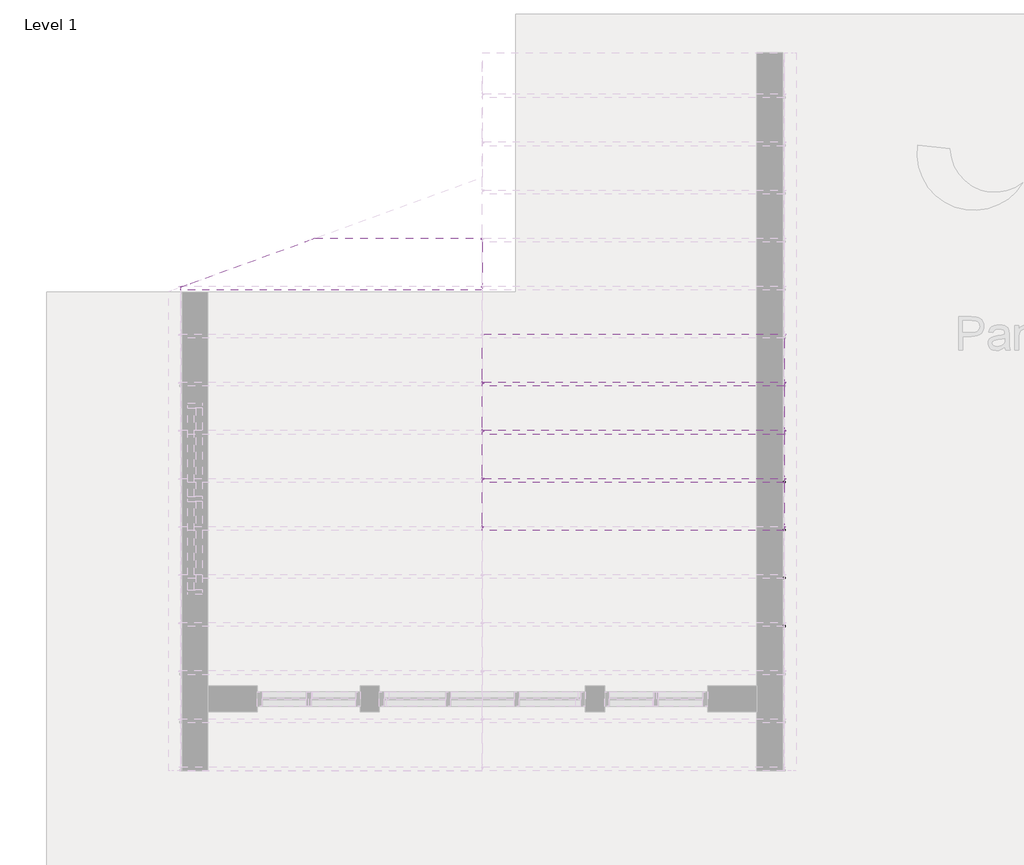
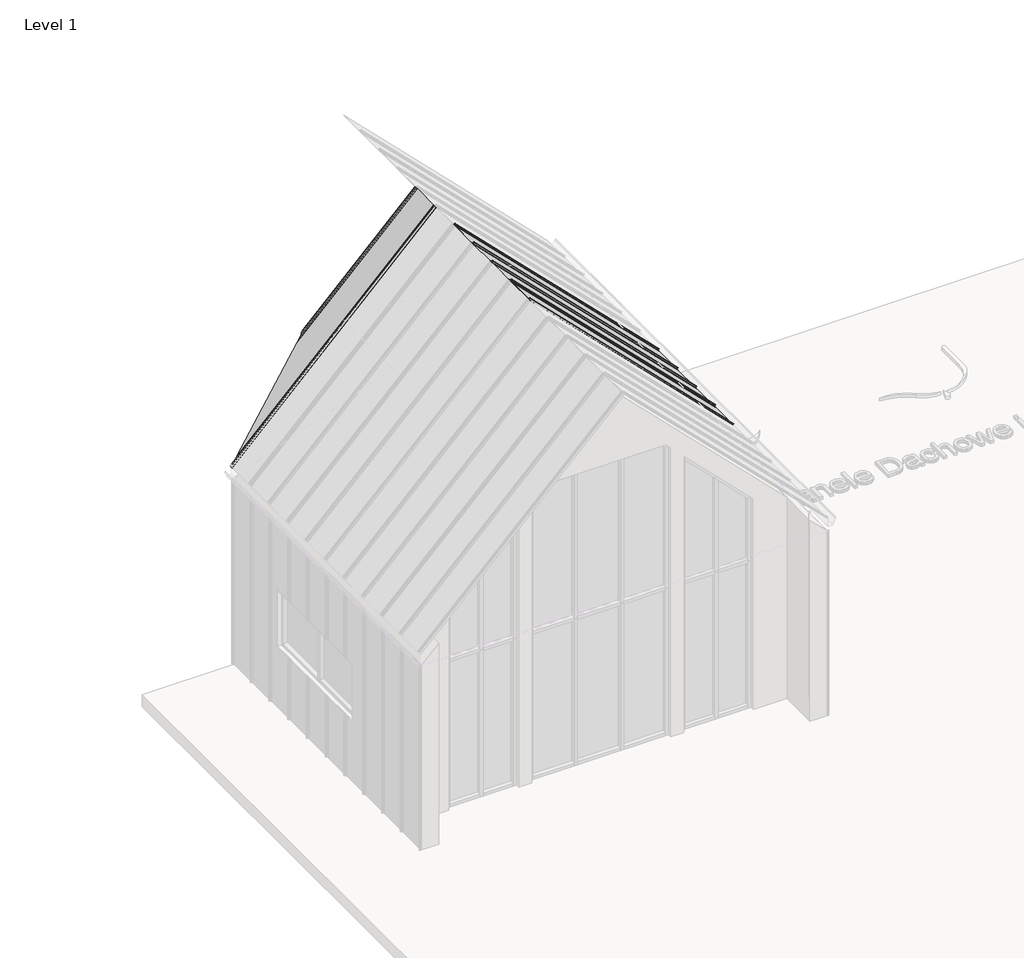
# One storey, part 6 of 22: 9 proxies.
"""IFC4 building model written with IfcOpenShell, lengths in millimetres."""

from ifc_helpers import new_model, si_unit, point, frame, frame_2d, origin, place, context, project, spatial, polyline, circle_curve, ellipse_curve, trimmed, segment, composite_curve, outline, extrude, faceted_brep, transform, mapped, element, save
from ifc_brep_helpers import plane_surface, cylinder_surface, revolved_surface, advanced_brep
from components import aqua_579f6fc6

model = new_model("IFC4")

# Units and contexts
model_context = context("Model", 3, world=origin())
ifc_project = project(units=[si_unit("LENGTHUNIT", "METRE", prefix="MILLI")], contexts=[model_context])

# Site, building, storey
site = spatial("IfcSite", under=ifc_project)
building = spatial("IfcBuilding", under=site)
storey = spatial("IfcBuildingStorey", under=building, Name="Level 1", Elevation=0.0)

# Proxies
placement = place(None, origin())
element("IfcBuildingElementProxy", 1, Name="AQUAPLAST - Panel Dachowy i Elewacyjny Aqua : Aqua", ObjectType="AQUAPLAST - Panel Dachowy i Elewacyjny Aqua : Aqua", at=placement, inside=storey, context=model_context, shape_type="SolidModel", body=[
    faceted_brep([(-5288.1752651, 14189.6302878, 6946.0091876), (-5288.1752651, 13757.4302375, 6946.0091876), (-5287.6095796, 13757.4302375, 6945.4435021), (-5287.6095796, 14189.6302878, 6945.4435021), (-7140.9819465, 14189.6302878, 5093.2025061), (-8328.4418253, 13757.4302375, 3905.7426273), (-8328.4418253, 13757.4302375, 3904.6112564), (-7140.9819465, 14189.6302878, 5092.0711353)], [[[0, 1, 2, 3]], [[1, 0, 4, 5]], [[2, 1, 5, 6]], [[3, 2, 6, 7]], [[0, 3, 7, 4]], [[5, 4, 7, 6]]]),
    advanced_brep(
    [(-5287.6095796, 14189.6302878, 6945.4435021), (-5288.1752651, 14189.6302878, 6946.0091876), (-7140.9819465, 14189.6302878, 5093.2025061), (-7140.9819465, 14189.6302878, 5092.0711353), (-5304.3675572, 14229.0282487, 6962.2014797), (-5304.7220183, 14228.526965, 6962.5559408), (-7034.114204, 14228.526965, 5233.163755), (-7032.7369384, 14229.0282487, 5233.8320984), (-5293.9366751, 14228.5205199, 6951.7705976), (-5294.5286279, 14229.0282487, 6952.3625504), (-7032.7369384, 14229.0282487, 5214.1542399), (-7034.1319119, 14228.5205199, 5211.5753608), (-5288.9108953, 14229.0494801, 6946.7448179), (-7032.6786057, 14229.0494801, 5202.9771075), (-5304.7220183, 14218.0304456, 6962.5559408), (-5289.4767511, 14229.0494801, 6947.3106737), (-5293.357646, 14229.0494801, 6951.1915685), (-5293.8348928, 14229.7302878, 6951.6688153), (-5304.9336958, 14229.7302878, 6962.7676183), (-5305.2872492, 14229.2302878, 6963.1211717), (-5305.2872492, 14217.2302878, 6963.1211717), (-5304.9336958, 14216.7302878, 6962.7676183), (-5289.0945039, 14216.7302878, 6946.9284264), (-5288.7409505, 14216.2302878, 6946.574873), (-5288.7409505, 14193.1302878, 6946.574873), (-5288.1753076, 14193.1302878, 6946.0092301), (-5288.1753076, 14217.0302126, 6946.0092301), (-5288.5287972, 14217.5301224, 6946.3627197), (-5304.3682363, 14217.5301224, 6962.2021588), (-7067.8990472, 14216.2302878, 5167.4167763), (-7131.3657755, 14193.1302878, 5103.9500479), (-7131.3657755, 14193.1302878, 5102.8187621), (-7065.7012718, 14217.0302126, 5168.4832659), (-7064.3277809, 14217.5301224, 5170.5637359), (-7064.3277809, 14217.5301224, 5202.2426141), (-7062.953154, 14218.0304456, 5204.324805), (-7032.6786057, 14229.0494801, 5204.1088191), (-7030.808102, 14229.7302878, 5214.6956062), (-7030.808102, 14229.7302878, 5236.8932121), (-7032.1818407, 14229.2302878, 5236.2265801), (-7065.1515697, 14217.2302878, 5203.2568511), (-7066.5253084, 14216.7302878, 5201.1760056), (-7066.5253084, 14216.7302878, 5169.4976218), (-7032.6786057, 14229.0494801, 5211.8706087)],
    [
        (0, 1),
        (1, 2),
        (2, 3),
        (3, 0),
        (4, 5, circle_curve(frame((-5304.3675572, 14228.526965, 6962.2014797), z_axis=(0.7071067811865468, 0.0, 0.7071067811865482), x_axis=(0.0, -1.0, 0.0)), 0.5012837)),
        (5, 6),
        (6, 7, ellipse_curve(frame((-7034.114204, 14228.526965, 5232.4548328), z_axis=(-0.34202014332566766, 0.9396926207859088, 0.0), x_axis=(-0.6434931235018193, -0.23421234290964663, -0.7287394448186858)), 2.0727498, 0.5012837)),
        (7, 4),
        (8, 9, circle_curve(frame((-5294.5286279, 14228.0842362, 6952.3625504), z_axis=(0.7071067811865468, 0.0, 0.7071067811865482), x_axis=(0.0, -1.0, 0.0)), 0.9440125)),
        (9, 10),
        (10, 11, ellipse_curve(frame((-7035.3305915, 14228.0842362, 5211.5605868), z_axis=(-0.34202014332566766, 0.9396926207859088, 0.0), x_axis=(-0.6434931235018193, -0.23421234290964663, -0.7287394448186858)), 3.9033822, 0.9440125)),
        (11, 8),
        (12, 8, circle_curve(frame((-5291.4377034, 14229.0494801, 6949.2716259), z_axis=(-0.7071067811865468, 0.0, -0.7071067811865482), x_axis=(0.0, -1.0, 0.0)), 3.5734462)),
        (11, 13, ellipse_curve(frame((-7032.6786057, 14229.0494801, 5208.0307236), z_axis=(0.34202014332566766, -0.9396926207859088, 0.0), x_axis=(0.6434931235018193, 0.23421234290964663, 0.7287394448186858)), 14.7757851, 3.5734462)),
        (13, 12),
        (14, 5),
        (4, 9),
        (12, 15),
        (15, 16, circle_curve(frame((-5291.4171986, 14229.0494801, 6949.2511211), z_axis=(-0.7071067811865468, 0.0, -0.7071067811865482), x_axis=(0.0, -1.0, 0.0)), 2.7442071)),
        (16, 17, circle_curve(frame((-5293.8348928, 14229.0553334, 6951.6688153), z_axis=(0.7071067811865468, 0.0, 0.7071067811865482), x_axis=(0.0, -1.0, 0.0)), 0.6749543)),
        (17, 18),
        (18, 19, circle_curve(frame((-5304.9336958, 14229.2302878, 6962.7676183), z_axis=(0.7071067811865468, 0.0, 0.7071067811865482), x_axis=(0.0, -1.0, 0.0)), 0.5)),
        (19, 20),
        (20, 21, circle_curve(frame((-5304.9336958, 14217.2302878, 6962.7676183), z_axis=(0.7071067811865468, 0.0, 0.7071067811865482), x_axis=(0.0, -1.0, 0.0)), 0.5)),
        (21, 22),
        (22, 23, circle_curve(frame((-5289.0945039, 14216.2302878, 6946.9284264), z_axis=(-0.7071067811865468, 0.0, -0.7071067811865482), x_axis=(0.0, -1.0, 0.0)), 0.5)),
        (23, 24),
        (24, 1),
        (0, 25),
        (25, 26),
        (26, 27, circle_curve(frame((-5288.5287972, 14217.0302126, 6946.3627197), z_axis=(0.7071067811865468, 0.0, 0.7071067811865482), x_axis=(0.0, -1.0, 0.0)), 0.4999098)),
        (27, 28),
        (28, 14, circle_curve(frame((-5304.3682363, 14218.0304456, 6962.2021588), z_axis=(-0.7071067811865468, 0.0, -0.7071067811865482), x_axis=(0.0, -1.0, 0.0)), 0.5003233)),
        (23, 29),
        (29, 30),
        (30, 24),
        (30, 2),
        (3, 31),
        (31, 25),
        (31, 32),
        (32, 26),
        (27, 33),
        (33, 34),
        (34, 28),
        (14, 35),
        (35, 6),
        (7, 10),
        (13, 36),
        (36, 15),
        (17, 37),
        (37, 38),
        (38, 18),
        (19, 39),
        (39, 40),
        (40, 20),
        (21, 41),
        (41, 42),
        (42, 22),
        (32, 33, ellipse_curve(frame((-7065.7012718, 14217.0302126, 5169.1902451), z_axis=(0.34202014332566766, -0.9396926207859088, 0.0), x_axis=(0.6434931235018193, 0.23421234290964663, 0.7287394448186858)), 2.0670689, 0.4999098)),
        (34, 35, ellipse_curve(frame((-7062.953154, 14218.0304456, 5203.617241), z_axis=(-0.34202014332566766, 0.9396926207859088, 0.0), x_axis=(-0.6434931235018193, -0.23421234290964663, -0.7287394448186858)), 2.0687786, 0.5003233)),
        (38, 39, ellipse_curve(frame((-7032.1818407, 14229.2302878, 5235.5194733), z_axis=(0.34202014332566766, -0.9396926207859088, 0.0), x_axis=(0.6434931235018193, 0.23421234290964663, 0.7287394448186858)), 2.0674419, 0.5)),
        (40, 41, ellipse_curve(frame((-7065.1515697, 14217.2302878, 5202.5497443), z_axis=(0.34202014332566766, -0.9396926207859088, 0.0), x_axis=(0.6434931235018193, 0.23421234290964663, 0.7287394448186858)), 2.0674419, 0.5)),
        (42, 29, ellipse_curve(frame((-7067.8990472, 14216.2302878, 5168.1238831), z_axis=(-0.34202014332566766, 0.9396926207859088, 0.0), x_axis=(-0.6434931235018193, -0.23421234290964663, -0.7287394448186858)), 2.0674419, 0.5)),
        (36, 43, ellipse_curve(frame((-7032.6786057, 14229.0494801, 5207.9897139), z_axis=(-0.34202014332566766, 0.9396926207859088, 0.0), x_axis=(-0.6434931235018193, -0.23421234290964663, -0.7287394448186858)), 11.3469774, 2.7442071)),
        (43, 16),
        (43, 37, ellipse_curve(frame((-7032.6625238, 14229.0553334, 5212.8411844), z_axis=(0.34202014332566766, -0.9396926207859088, 0.0), x_axis=(0.6434931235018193, 0.23421234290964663, 0.7287394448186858)), 2.7908578, 0.6749543)),
    ],
    [
        plane_surface(frame((-5288.1752651, 14189.6302878, 6946.0091876), z_axis=(0.0, -1.0, 0.0), x_axis=(-0.7071067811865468, 0.0, -0.7071067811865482))),
        revolved_surface(polyline([(-7035.536351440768, 14228.0256813, 5231.032685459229), (-5304.3675572, 14228.0256813, 6962.2014797)]), (-5304.3675572, 14228.526965, 6962.2014797), (-0.7071067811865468, 0.0, -0.7071067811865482)),
        revolved_surface(polyline([(-7038.008765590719, 14227.1402237, 5208.882412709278), (-5294.5286279, 14227.1402237, 6952.3625504)]), (-5294.5286279, 14228.0842362, 6952.3625504), (-0.7071067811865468, 0.0, -0.7071067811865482)),
        cylinder_surface(frame((-5291.4377034, 14229.0494801, 6949.2716259), z_axis=(0.7071067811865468, 0.0, 0.7071067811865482), x_axis=(0.0, -1.0, 0.0)), 3.5734462),
        plane_surface(frame((-5287.6095796, 14229.7302878, 6945.4435021), z_axis=(0.7071067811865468, 0.0, 0.7071067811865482), x_axis=(-0.7071067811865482, 0.0, 0.7071067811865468))),
        plane_surface(frame((-5288.7409505, 14216.2302878, 6946.574873), z_axis=(-0.7071067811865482, 0.0, 0.7071067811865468), x_axis=(-0.7071067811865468, 0.0, -0.7071067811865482))),
        plane_surface(frame((-5288.7409505, 14193.1302878, 6946.574873), z_axis=(-0.6893290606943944, -0.2228248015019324, 0.6893290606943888), x_axis=(-0.7071067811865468, 0.0, -0.7071067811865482))),
        plane_surface(frame((-5287.6095796, 14189.6302878, 6945.4435021), z_axis=(0.6893264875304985, 0.22284072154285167, -0.689326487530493), x_axis=(-0.7071067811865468, 0.0, -0.7071067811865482))),
        plane_surface(frame((-5288.1753076, 14193.1302878, 6946.0092301), z_axis=(0.7071067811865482, 0.0, -0.7071067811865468), x_axis=(-0.7071067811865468, 0.0, -0.7071067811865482))),
        plane_surface(frame((-5288.5287972, 14217.5301224, 6946.3627197), z_axis=(0.0, 1.0, 0.0), x_axis=(-0.7071067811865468, 0.0, -0.7071067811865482))),
        plane_surface(frame((-5304.7220183, 14218.0304456, 6962.5559408), z_axis=(0.7071067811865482, 0.0, -0.7071067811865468), x_axis=(-0.7071067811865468, 0.0, -0.7071067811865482))),
        plane_surface(frame((-5304.3675572, 14229.0282487, 6962.2014797), z_axis=(0.0, -1.0, 0.0), x_axis=(-0.7071067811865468, 0.0, -0.7071067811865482))),
        plane_surface(frame((-5288.9108953, 14229.0494801, 6946.7448179), z_axis=(0.0, 1.0, 0.0), x_axis=(-0.7071067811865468, 0.0, -0.7071067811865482))),
        plane_surface(frame((-5293.8348928, 14229.7302878, 6951.6688153), z_axis=(0.0, 1.0, 0.0), x_axis=(-0.7071067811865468, 0.0, -0.7071067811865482))),
        plane_surface(frame((-5305.2872492, 14229.2302878, 6963.1211717), z_axis=(-0.7071067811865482, 0.0, 0.7071067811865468), x_axis=(-0.7071067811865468, 0.0, -0.7071067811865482))),
        plane_surface(frame((-5304.9336958, 14216.7302878, 6962.7676183), z_axis=(0.0, -1.0, 0.0), x_axis=(-0.7071067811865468, 0.0, -0.7071067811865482))),
        cylinder_surface(frame((-5288.5287972, 14217.0302126, 6946.3627197), z_axis=(0.7071067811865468, 0.0, 0.7071067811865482), x_axis=(0.0, -1.0, 0.0)), 0.4999098),
        revolved_surface(polyline([(-7064.37257673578, 14217.530122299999, 5202.197818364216), (-5304.3682363, 14217.530122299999, 6962.2021588)]), (-5304.3682363, 14218.0304456, 6962.2021588), (-0.7071067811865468, 0.0, -0.7071067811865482)),
        cylinder_surface(frame((-5304.9336958, 14229.2302878, 6962.7676183), z_axis=(0.7071067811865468, 0.0, 0.7071067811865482), x_axis=(0.0, -1.0, 0.0)), 0.5),
        cylinder_surface(frame((-5304.9336958, 14217.2302878, 6962.7676183), z_axis=(0.7071067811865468, 0.0, 0.7071067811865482), x_axis=(0.0, -1.0, 0.0)), 0.5),
        revolved_surface(polyline([(-7069.3175527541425, 14215.7302878, 5166.7053775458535), (-5289.0945039, 14215.7302878, 6946.9284264)]), (-5289.0945039, 14216.2302878, 6946.9284264), (-0.7071067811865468, 0.0, -0.7071067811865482)),
        revolved_surface(polyline([(-7040.463951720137, 14226.305273, 5200.204367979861), (-5291.417198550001, 14226.305273, 6949.25112115)]), (-5291.4171986, 14229.0494801, 6949.2511211), (-0.7071067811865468, 0.0, -0.7071067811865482)),
        cylinder_surface(frame((-5293.8348928, 14229.0553334, 6951.6688153), z_axis=(0.7071067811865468, 0.0, 0.7071067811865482), x_axis=(0.0, -1.0, 0.0)), 0.6749543),
        plane_surface(frame((-5286.1599406, 14864.7302878, 7363.6396103), z_axis=(-0.34202014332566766, 0.9396926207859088, 0.0), x_axis=(0.0, 0.0, -1.0))),
    ],
    [
        (0, [[1, 2, 3, 4]]),
        (1, [[5, 6, 7, 8]]),
        (2, [[9, 10, 11, 12]]),
        (3, [[13, -12, 14, 15]]),
        (4, [[16, -5, 17, -9, -13, 18, 19, 20, 21, 22, 23, 24, 25, 26, 27, 28, -1, 29, 30, 31, 32, 33]]),
        (5, [[-27, 34, 35, 36]]),
        (6, [[-28, -36, 37, -2]]),
        (7, [[-29, -4, 38, 39]]),
        (8, [[-30, -39, 40, 41]]),
        (9, [[-32, 42, 43, 44]]),
        (10, [[-16, 45, 46, -6]]),
        (11, [[-17, -8, 47, -10]]),
        (12, [[-18, -15, 48, 49]]),
        (13, [[-21, 50, 51, 52]]),
        (14, [[-23, 53, 54, 55]]),
        (15, [[-25, 56, 57, 58]]),
        (16, [[-31, -41, 59, -42]]),
        (17, [[-33, -44, 60, -45]]),
        (18, [[-22, -52, 61, -53]]),
        (19, [[-24, -55, 62, -56]]),
        (20, [[-26, -58, 63, -34]]),
        (21, [[-19, -49, 64, 65]]),
        (22, [[-20, -65, 66, -50]]),
        (23, [[-3, -37, -35, -63, -57, -62, -54, -61, -51, -66, -64, -48, -14, -11, -47, -7, -46, -60, -43, -59, -40, -38]]),
    ],
),
    advanced_brep(
    [(-5288.1752651, 13684.7302878, 6946.0091876), (-5287.6095796, 13684.7302878, 6945.4435021), (-5287.6095796, 13715.9955205, 6945.4435021), (-5288.0509427, 13716.7264186, 6945.8848652), (-5300.6771482, 13719.556418, 6958.5110707), (-5301.1402304, 13723.0909309, 6958.9741529), (-5296.019489, 13726.0026946, 6953.8534115), (-5294.5048518, 13725.1636585, 6952.3387743), (-5288.1752651, 13727.1739857, 6946.0091876), (-5288.1752651, 13753.9302375, 6946.0091876), (-5287.6095796, 13757.4302375, 6945.4435021), (-5288.1752651, 13757.4302375, 6946.0091876), (-5288.7409505, 13753.9302375, 6946.574873), (-5288.7409505, 13727.0148102, 6946.574873), (-5293.9752443, 13725.4493744, 6951.8091668), (-5296.2321549, 13726.7440114, 6954.0660774), (-5301.4230731, 13723.7837512, 6959.2569956), (-5300.8786897, 13718.7965529, 6958.7126122), (-5288.5642668, 13715.7635962, 6946.3981893), (-5288.1752651, 13715.1093758, 6946.0091876), (-8437.6288685, 13684.7302878, 3796.5555842), (-8437.6288685, 13715.1093758, 3796.5555842), (-8438.0178702, 13715.7635962, 3796.9445859), (-8440.9415634, 13716.4836815, 3799.8682791), (-8439.2189186, 13717.1106729, 3798.1456343), (-8437.5045461, 13716.7264186, 3796.4312618), (-8437.063183, 13715.9955205, 3795.9898987), (-8437.063183, 13684.7302878, 3795.9898987), (-8411.5701939, 13727.1739857, 3822.6142587), (-8338.0579963, 13753.9302375, 3896.1264563), (-8328.4418253, 13757.4302375, 3904.6112564), (-8328.4418253, 13757.4302375, 3905.7426273), (-8338.0579963, 13753.9302375, 3897.2578272), (-8412.0075249, 13727.0148102, 3823.3082985), (-8432.4992891, 13719.556418, 3826.6889298), (-8422.7882948, 13723.0909309, 3837.3260885), (-8414.7882899, 13726.0026946, 3835.0846106), (-8417.0935225, 13725.1636585, 3829.7501035), (-8416.3085244, 13725.4493744, 3829.4758867), (-8412.7515386, 13726.7440114, 3837.5466937), (-8420.8847866, 13723.7837512, 3839.7952821), (-8434.5870014, 13718.7965529, 3825.0043004)],
    [
        (0, 1),
        (1, 2),
        (2, 3, circle_curve(frame((-5288.1328534, 13715.9955205, 6945.9667759), z_axis=(0.7071067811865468, 0.0, 0.7071067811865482), x_axis=(0.0, -1.0, 0.0)), 0.7400208)),
        (3, 4),
        (4, 5, circle_curve(frame((-5300.4660973, 13721.4396488, 6958.3000198), z_axis=(-0.7071067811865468, 0.0, -0.7071067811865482), x_axis=(0.0, -1.0, 0.0)), 1.9067363)),
        (5, 6),
        (6, 7, circle_curve(frame((-5295.577024, 13724.4464221, 6953.4109465), z_axis=(-0.7071067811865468, 0.0, -0.7071067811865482), x_axis=(0.0, -1.0, 0.0)), 1.6773594)),
        (7, 8, circle_curve(frame((-5291.4996824, 13727.1739857, 6949.3336049), z_axis=(0.7071067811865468, 0.0, 0.7071067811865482), x_axis=(0.0, -1.0, 0.0)), 4.7014361)),
        (8, 9),
        (9, 10),
        (10, 11),
        (11, 12),
        (12, 13),
        (13, 14, circle_curve(frame((-5291.4751423, 13727.0148102, 6949.3090648), z_axis=(-0.7071067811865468, 0.0, -0.7071067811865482), x_axis=(0.0, -1.0, 0.0)), 3.8667311)),
        (14, 15, circle_curve(frame((-5295.577024, 13724.4464221, 6953.4109465), z_axis=(0.7071067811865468, 0.0, 0.7071067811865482), x_axis=(0.0, -1.0, 0.0)), 2.4773594)),
        (15, 16),
        (16, 17, circle_curve(frame((-5300.4660973, 13721.4396488, 6958.3000198), z_axis=(0.7071067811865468, 0.0, 0.7071067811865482), x_axis=(0.0, -1.0, 0.0)), 2.7067363)),
        (17, 18),
        (18, 19, circle_curve(frame((-5288.6448318, 13715.1093758, 6946.4787543), z_axis=(-0.7071067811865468, 0.0, -0.7071067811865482), x_axis=(0.0, -1.0, 0.0)), 0.6640676)),
        (19, 0),
        (20, 21),
        (21, 22, circle_curve(frame((-8438.0984352, 13715.1093758, 3797.0251509), z_axis=(0.7071067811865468, 0.0, 0.7071067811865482), x_axis=(0.0, -1.0, 0.0)), 0.6640676)),
        (22, 23),
        (23, 24),
        (24, 25),
        (25, 26, circle_curve(frame((-8437.5864568, 13715.9955205, 3796.5131725), z_axis=(-0.7071067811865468, 0.0, -0.7071067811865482), x_axis=(0.0, -1.0, 0.0)), 0.7400208)),
        (26, 27),
        (27, 20),
        (0, 20),
        (27, 1),
        (26, 2),
        (8, 28),
        (28, 29),
        (29, 9),
        (29, 30),
        (30, 10),
        (30, 31),
        (31, 11),
        (31, 32),
        (32, 12),
        (32, 33),
        (33, 13),
        (19, 21),
        (4, 34),
        (34, 35, ellipse_curve(frame((-8427.3251549, 13721.4396488, 3831.4409622), z_axis=(-0.34202014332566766, 0.9396926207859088, 0.0), x_axis=(-0.6434931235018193, -0.23421234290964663, -0.7287394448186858)), 7.884133, 1.9067363)),
        (35, 5),
        (6, 36),
        (36, 37, ellipse_curve(frame((-8419.0641134, 13724.4464221, 3829.9238571), z_axis=(-0.34202014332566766, 0.9396926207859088, 0.0), x_axis=(-0.6434931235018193, -0.23421234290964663, -0.7287394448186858)), 6.9356864, 1.6773594)),
        (37, 7),
        (14, 38),
        (38, 39, ellipse_curve(frame((-8419.0641134, 13724.4464221, 3829.9238571), z_axis=(0.34202014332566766, -0.9396926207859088, 0.0), x_axis=(0.6434931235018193, 0.23421234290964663, 0.7287394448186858)), 10.2435935, 2.4773594)),
        (39, 15),
        (16, 40),
        (40, 41, ellipse_curve(frame((-8427.3251549, 13721.4396488, 3831.4409622), z_axis=(0.34202014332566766, -0.9396926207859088, 0.0), x_axis=(0.6434931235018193, 0.23421234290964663, 0.7287394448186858)), 11.19204, 2.7067363)),
        (41, 17),
        (25, 3),
        (24, 34),
        (35, 36),
        (37, 28, ellipse_curve(frame((-8411.5701939, 13727.1739857, 3829.2630933), z_axis=(0.34202014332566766, -0.9396926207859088, 0.0), x_axis=(0.6434931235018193, 0.23421234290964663, 0.7287394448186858)), 19.4398921, 4.7014361)),
        (33, 38, ellipse_curve(frame((-8412.0075249, 13727.0148102, 3828.7766821), z_axis=(-0.34202014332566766, 0.9396926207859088, 0.0), x_axis=(-0.6434931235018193, -0.23421234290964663, -0.7287394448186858)), 15.988484, 3.8667311)),
        (39, 40),
        (41, 23),
        (22, 18),
    ],
    [
        plane_surface(frame((-5287.6095796, 13684.7302878, 6945.4435021), z_axis=(0.7071067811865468, 0.0, 0.7071067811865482), x_axis=(-0.7071067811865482, 0.0, 0.7071067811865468))),
        plane_surface(frame((-8437.063183, 13684.7302878, 3795.9898987), z_axis=(-0.7071067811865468, 0.0, -0.7071067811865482), x_axis=(-0.7071067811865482, 0.0, 0.7071067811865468))),
        plane_surface(frame((-5288.1752651, 13684.7302878, 6946.0091876), z_axis=(0.0, -1.0, 0.0), x_axis=(-0.7071067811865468, 0.0, -0.7071067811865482))),
        plane_surface(frame((-5287.6095796, 13684.7302878, 6945.4435021), z_axis=(0.7071067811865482, 0.0, -0.7071067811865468), x_axis=(-0.7071067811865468, 0.0, -0.7071067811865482))),
        plane_surface(frame((-5288.1752651, 13727.1739857, 6946.0091876), z_axis=(0.7071067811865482, 0.0, -0.7071067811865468), x_axis=(-0.7071067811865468, 0.0, -0.7071067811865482))),
        plane_surface(frame((-5288.1752651, 13753.9302375, 6946.0091876), z_axis=(0.6893290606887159, -0.2228248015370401, -0.6893290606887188), x_axis=(-0.7071067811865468, 0.0, -0.7071067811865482))),
        plane_surface(frame((-5287.6095796, 13757.4302375, 6945.4435021), z_axis=(0.0, 1.0, 0.0), x_axis=(-0.7071067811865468, 0.0, -0.7071067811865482))),
        plane_surface(frame((-5288.1752651, 13757.4302375, 6946.0091876), z_axis=(-0.6893290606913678, 0.22282480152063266, 0.6893290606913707), x_axis=(-0.7071067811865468, 0.0, -0.7071067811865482))),
        plane_surface(frame((-5288.7409505, 13753.9302375, 6946.574873), z_axis=(-0.7071067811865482, 0.0, 0.7071067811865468), x_axis=(-0.7071067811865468, 0.0, -0.7071067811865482))),
        plane_surface(frame((-5288.1752651, 13715.1093758, 6946.0091876), z_axis=(-0.7071067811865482, 0.0, 0.7071067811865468), x_axis=(-0.7071067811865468, 0.0, -0.7071067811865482))),
        revolved_surface(polyline([(-8432.734586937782, 13719.5329125, 3826.0315301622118), (-5300.4660973, 13719.5329125, 6958.3000198)]), (-5300.4660973, 13721.4396488, 6958.3000198), (-0.7071067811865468, 0.0, -0.7071067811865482)),
        revolved_surface(polyline([(-8423.822800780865, 13722.7690627, 3825.1651697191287), (-5295.577024, 13722.7690627, 6953.4109465)]), (-5295.577024, 13724.4464221, 6953.4109465), (-0.7071067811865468, 0.0, -0.7071067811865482)),
        cylinder_surface(frame((-5295.577024, 13724.4464221, 6953.4109465), z_axis=(0.7071067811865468, 0.0, 0.7071067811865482), x_axis=(0.0, -1.0, 0.0)), 2.4773594),
        cylinder_surface(frame((-5300.4660973, 13721.4396488, 6958.3000198), z_axis=(0.7071067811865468, 0.0, 0.7071067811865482), x_axis=(0.0, -1.0, 0.0)), 2.7067363),
        cylinder_surface(frame((-5288.1328534, 13715.9955205, 6945.9667759), z_axis=(0.7071067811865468, 0.0, 0.7071067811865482), x_axis=(0.0, -1.0, 0.0)), 0.7400208),
        plane_surface(frame((-5288.0509427, 13716.7264186, 6945.8848652), z_axis=(0.11068695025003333, 0.9876724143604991, -0.11068695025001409), x_axis=(-0.7071067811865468, 0.0, -0.7071067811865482))),
        plane_surface(frame((-5301.1402304, 13723.0909309, 6958.9741529), z_axis=(0.26378663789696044, -0.9278109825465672, -0.26378663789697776), x_axis=(-0.7071067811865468, 0.0, -0.7071067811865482))),
        cylinder_surface(frame((-5291.4996824, 13727.1739857, 6949.3336049), z_axis=(0.7071067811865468, 0.0, 0.7071067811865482), x_axis=(0.0, -1.0, 0.0)), 4.7014361),
        revolved_surface(polyline([(-8422.977484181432, 13723.1480791, 3817.8067229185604), (-5291.4751423, 13723.1480791, 6949.3090648)]), (-5291.4751423, 13727.0148102, 6949.3090648), (-0.7071067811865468, 0.0, -0.7071067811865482)),
        plane_surface(frame((-5296.2321549, 13726.7440114, 6954.0660774), z_axis=(-0.26444726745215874, 0.9274347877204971, 0.26444726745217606), x_axis=(-0.7071067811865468, 0.0, -0.7071067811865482))),
        plane_surface(frame((-5300.8786897, 13718.7965529, 6958.7126122), z_axis=(-0.12132043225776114, -0.9851714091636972, 0.12132043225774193), x_axis=(-0.7071067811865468, 0.0, -0.7071067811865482))),
        revolved_surface(polyline([(-8438.098435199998, 13714.4453082, 3797.025150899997), (-5288.6448318, 13714.4453082, 6946.4787543)]), (-5288.6448318, 13715.1093758, 6946.4787543), (-0.7071067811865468, 0.0, -0.7071067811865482)),
        plane_surface(frame((-5286.1599406, 14864.7302878, 7363.6396103), z_axis=(-0.34202014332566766, 0.9396926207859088, 0.0), x_axis=(0.0, 0.0, -1.0))),
    ],
    [
        (0, [[1, 2, 3, 4, 5, 6, 7, 8, 9, 10, 11, 12, 13, 14, 15, 16, 17, 18, 19, 20]]),
        (1, [[21, 22, 23, 24, 25, 26, 27, 28]]),
        (2, [[-1, 29, -28, 30]]),
        (3, [[-2, -30, -27, 31]]),
        (4, [[-9, 32, 33, 34]]),
        (5, [[-10, -34, 35, 36]]),
        (6, [[-11, -36, 37, 38]]),
        (7, [[-12, -38, 39, 40]]),
        (8, [[-13, -40, 41, 42]]),
        (9, [[-20, 43, -21, -29]]),
        (10, [[-5, 44, 45, 46]]),
        (11, [[-7, 47, 48, 49]]),
        (12, [[-15, 50, 51, 52]]),
        (13, [[-17, 53, 54, 55]]),
        (14, [[-3, -31, -26, 56]]),
        (15, [[-4, -56, -25, 57, -44]]),
        (16, [[-6, -46, 58, -47]]),
        (17, [[-8, -49, 59, -32]]),
        (18, [[-14, -42, 60, -50]]),
        (19, [[-16, -52, 61, -53]]),
        (20, [[-18, -55, 62, -23, 63]]),
        (21, [[-19, -63, -22, -43]]),
        (22, [[-24, -62, -54, -61, -51, -60, -41, -39, -37, -35, -33, -59, -48, -58, -45, -57]]),
    ],
),
])
element("IfcBuildingElementProxy", 2, Name="AQUAPLAST - Panel Dachowy i Elewacyjny Aqua : Aqua", ObjectType="AQUAPLAST - Panel Dachowy i Elewacyjny Aqua : Aqua", at=placement, inside=storey, context=model_context, shape_type="SweptSolid", body=[
    extrude(outline(polyline([(0.0, 432.2000503), (4454.0, 432.2000503), (4454.0, 0.0), (0.0, 0.0), (0.0, 432.2000503)])), frame((-5287.0692136, 11247.4302375, 6945.9959293), z_axis=(0.7071067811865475, 0.0, 0.7071067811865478), x_axis=(0.7071067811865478, 0.0, -0.7071067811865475)), (0.0, 0.0, 1.0), 0.8),
    extrude(outline(composite_curve([segment(polyline([(1.6, -36.6), (0.8, -40.1), (0.0, -40.1), (0.8000601, -36.6), (0.8000601, -12.7000752)]), True, "CONTINUOUS"), segment(trimmed(circle_curve(frame_2d((1.2999699, -12.7000752)), 0.4999098), [point((0.8000601, -12.7000752))], [point((1.2999699, -12.2001654))], False, "CARTESIAN"), True, "CONTINUOUS"), segment(polyline([(1.2999699, -12.2001654), (23.7003195, -12.2001654)]), True, "CONTINUOUS"), segment(trimmed(circle_curve(frame_2d((23.7003195, -11.6998422)), 0.5003233), [point((23.7003195, -12.2001654))], [point((24.2006428, -11.6998422))], True, "CARTESIAN"), True, "CONTINUOUS"), segment(polyline([(24.2006428, -11.6998422), (24.2006428, -1.2033228)]), True, "CONTINUOUS"), segment(trimmed(circle_curve(frame_2d((23.6993591, -1.2033228)), 0.5012837), [point((24.2006428, -1.2033228))], [point((23.6993591, -0.7020391))], True, "CARTESIAN"), True, "CONTINUOUS"), segment(polyline([(23.6993591, -0.7020391), (9.7850119, -0.7020391)]), True, "CONTINUOUS"), segment(trimmed(circle_curve(frame_2d((9.7850119, -1.6460516)), 0.9440125), [point((9.7850119, -0.7020391))], [point((8.9478643, -1.2097679))], True, "CARTESIAN"), True, "CONTINUOUS"), segment(trimmed(circle_curve(frame_2d((5.4137846, -0.6808077)), 3.5734462), [point((8.9478643, -1.2097679))], [point((1.8403383, -0.6808077))], False, "CARTESIAN"), True, "CONTINUOUS"), segment(polyline([(1.8403383, -0.6808077), (2.6405793, -0.6808077)]), True, "CONTINUOUS"), segment(trimmed(circle_curve(frame_2d((5.3847863, -0.6808077)), 2.7442071), [point((2.6405793, -0.6808077))], [point((8.1289934, -0.6808077))], True, "CARTESIAN"), True, "CONTINUOUS"), segment(trimmed(circle_curve(frame_2d((8.8039224, -0.6749544)), 0.6749543), [point((8.1289934, -0.6808077))], [point((8.8039224, 0.0))], False, "CARTESIAN"), True, "CONTINUOUS"), segment(polyline([(8.8039224, 0.0), (24.4999999, 0.0)]), True, "CONTINUOUS"), segment(trimmed(circle_curve(frame_2d((24.4999999, -0.5)), 0.5), [point((24.4999999, 0.0))], [point((25.0, -0.5))], False, "CARTESIAN"), True, "CONTINUOUS"), segment(polyline([(25.0, -0.5), (25.0, -12.5)]), True, "CONTINUOUS"), segment(trimmed(circle_curve(frame_2d((24.4999999, -12.5)), 0.5), [point((25.0, -12.5))], [point((24.4999999, -13.0))], False, "CARTESIAN"), True, "CONTINUOUS"), segment(polyline([(24.4999999, -13.0), (2.0999999, -13.0)]), True, "CONTINUOUS"), segment(trimmed(circle_curve(frame_2d((2.0999999, -13.5)), 0.5), [point((2.0999999, -13.0))], [point((1.6, -13.5))], True, "CARTESIAN"), True, "CONTINUOUS"), segment(polyline([(1.6, -13.5), (1.6, -36.6)]), True, "CONTINUOUS")], self_intersect=False)), frame((-2137.6156102, 11719.7302878, 3796.5423259), z_axis=(-0.7071067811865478, 0.0, 0.7071067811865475), x_axis=(0.7071067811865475, 0.0, 0.7071067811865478)), (0.0, 0.0, 1.0), 4454.0),
    extrude(outline(composite_curve([segment(polyline([(0.8, 0.0), (0.0, 0.0), (0.0, 31.2652327)]), True, "CONTINUOUS"), segment(trimmed(circle_curve(frame_2d((0.7400208, 31.2652327)), 0.7400208), [point((0.0, 31.2652327))], [point((0.6241817, 31.9961308))], False, "CARTESIAN"), True, "CONTINUOUS"), segment(polyline([(0.6241817, 31.9961308), (18.4803326, 34.8261302)]), True, "CONTINUOUS"), segment(trimmed(circle_curve(frame_2d((18.1818617, 36.709361)), 1.9067363), [point((18.4803326, 34.8261302))], [point((19.1352299, 38.3606431))], True, "CARTESIAN"), True, "CONTINUOUS"), segment(polyline([(19.1352299, 38.3606431), (11.8934079, 41.2724068)]), True, "CONTINUOUS"), segment(trimmed(circle_curve(frame_2d((11.2676679, 39.7161343)), 1.6773594), [point((11.8934079, 41.2724068))], [point((9.7513873, 40.4333707))], True, "CARTESIAN"), True, "CONTINUOUS"), segment(trimmed(circle_curve(frame_2d((5.5014361, 42.4436979)), 4.7014361), [point((9.7513873, 40.4333707))], [point((0.8, 42.4436979))], False, "CARTESIAN"), True, "CONTINUOUS"), segment(polyline([(0.8, 42.4436979), (0.8, 69.1999497), (0.0, 72.6999497), (0.8, 72.6999497), (1.6, 69.1999497), (1.6, 42.2845224)]), True, "CONTINUOUS"), segment(trimmed(circle_curve(frame_2d((5.4667311, 42.2845224)), 3.8667311), [point((1.6, 42.2845224))], [point((9.0024094, 40.7190866))], True, "CARTESIAN"), True, "CONTINUOUS"), segment(trimmed(circle_curve(frame_2d((11.2676679, 39.7161343)), 2.4773594), [point((9.0024094, 40.7190866))], [point((12.1941629, 42.0137236))], False, "CARTESIAN"), True, "CONTINUOUS"), segment(polyline([(12.1941629, 42.0137236), (19.5352299, 39.0534634)]), True, "CONTINUOUS"), segment(trimmed(circle_curve(frame_2d((18.1818617, 36.709361)), 2.7067363), [point((19.5352299, 39.0534634))], [point((18.7653553, 34.0662651))], False, "CARTESIAN"), True, "CONTINUOUS"), segment(polyline([(18.7653553, 34.0662651), (1.3501316, 31.0333084)]), True, "CONTINUOUS"), segment(trimmed(circle_curve(frame_2d((1.4640676, 30.379088)), 0.6640676), [point((1.3501316, 31.0333084))], [point((0.8, 30.379088))], True, "CARTESIAN"), True, "CONTINUOUS"), segment(polyline([(0.8, 30.379088), (0.8, 0.0)]), True, "CONTINUOUS")], self_intersect=False)), frame((-2137.6156102, 11174.7302878, 3796.5423259), z_axis=(-0.7071067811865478, 0.0, 0.7071067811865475), x_axis=(0.7071067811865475, 0.0, 0.7071067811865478)), (0.0, 0.0, 1.0), 4454.0),
])
element("IfcBuildingElementProxy", 3, Name="AQUAPLAST - Panel Dachowy i Elewacyjny Aqua : Aqua", ObjectType="AQUAPLAST - Panel Dachowy i Elewacyjny Aqua : Aqua", at=placement, inside=storey, context=model_context, shape_type="SweptSolid", body=[
    extrude(outline(polyline([(0.0, 432.2000503), (4454.0, 432.2000503), (4454.0, 0.0), (0.0, 0.0), (0.0, 432.2000503)])), frame((-5287.0692136, 11749.4302375, 6945.9959293), z_axis=(0.7071067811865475, 0.0, 0.7071067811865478), x_axis=(0.7071067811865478, 0.0, -0.7071067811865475)), (0.0, 0.0, 1.0), 0.8),
    extrude(outline(composite_curve([segment(polyline([(1.6, -36.6), (0.8, -40.1), (0.0, -40.1), (0.8000601, -36.6), (0.8000601, -12.7000752)]), True, "CONTINUOUS"), segment(trimmed(circle_curve(frame_2d((1.2999699, -12.7000752)), 0.4999098), [point((0.8000601, -12.7000752))], [point((1.2999699, -12.2001654))], False, "CARTESIAN"), True, "CONTINUOUS"), segment(polyline([(1.2999699, -12.2001654), (23.7003195, -12.2001654)]), True, "CONTINUOUS"), segment(trimmed(circle_curve(frame_2d((23.7003195, -11.6998422)), 0.5003233), [point((23.7003195, -12.2001654))], [point((24.2006428, -11.6998422))], True, "CARTESIAN"), True, "CONTINUOUS"), segment(polyline([(24.2006428, -11.6998422), (24.2006428, -1.2033228)]), True, "CONTINUOUS"), segment(trimmed(circle_curve(frame_2d((23.6993591, -1.2033228)), 0.5012837), [point((24.2006428, -1.2033228))], [point((23.6993591, -0.7020391))], True, "CARTESIAN"), True, "CONTINUOUS"), segment(polyline([(23.6993591, -0.7020391), (9.7850119, -0.7020391)]), True, "CONTINUOUS"), segment(trimmed(circle_curve(frame_2d((9.7850119, -1.6460516)), 0.9440125), [point((9.7850119, -0.7020391))], [point((8.9478643, -1.2097679))], True, "CARTESIAN"), True, "CONTINUOUS"), segment(trimmed(circle_curve(frame_2d((5.4137846, -0.6808077)), 3.5734462), [point((8.9478643, -1.2097679))], [point((1.8403383, -0.6808077))], False, "CARTESIAN"), True, "CONTINUOUS"), segment(polyline([(1.8403383, -0.6808077), (2.6405793, -0.6808077)]), True, "CONTINUOUS"), segment(trimmed(circle_curve(frame_2d((5.3847863, -0.6808077)), 2.7442071), [point((2.6405793, -0.6808077))], [point((8.1289934, -0.6808077))], True, "CARTESIAN"), True, "CONTINUOUS"), segment(trimmed(circle_curve(frame_2d((8.8039224, -0.6749544)), 0.6749543), [point((8.1289934, -0.6808077))], [point((8.8039224, 0.0))], False, "CARTESIAN"), True, "CONTINUOUS"), segment(polyline([(8.8039224, 0.0), (24.4999999, 0.0)]), True, "CONTINUOUS"), segment(trimmed(circle_curve(frame_2d((24.4999999, -0.5)), 0.5), [point((24.4999999, 0.0))], [point((25.0, -0.5))], False, "CARTESIAN"), True, "CONTINUOUS"), segment(polyline([(25.0, -0.5), (25.0, -12.5)]), True, "CONTINUOUS"), segment(trimmed(circle_curve(frame_2d((24.4999999, -12.5)), 0.5), [point((25.0, -12.5))], [point((24.4999999, -13.0))], False, "CARTESIAN"), True, "CONTINUOUS"), segment(polyline([(24.4999999, -13.0), (2.0999999, -13.0)]), True, "CONTINUOUS"), segment(trimmed(circle_curve(frame_2d((2.0999999, -13.5)), 0.5), [point((2.0999999, -13.0))], [point((1.6, -13.5))], True, "CARTESIAN"), True, "CONTINUOUS"), segment(polyline([(1.6, -13.5), (1.6, -36.6)]), True, "CONTINUOUS")], self_intersect=False)), frame((-2137.6156102, 12221.7302878, 3796.5423259), z_axis=(-0.7071067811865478, 0.0, 0.7071067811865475), x_axis=(0.7071067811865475, 0.0, 0.7071067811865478)), (0.0, 0.0, 1.0), 4454.0),
    extrude(outline(composite_curve([segment(polyline([(0.8, 0.0), (0.0, 0.0), (0.0, 31.2652327)]), True, "CONTINUOUS"), segment(trimmed(circle_curve(frame_2d((0.7400208, 31.2652327)), 0.7400208), [point((0.0, 31.2652327))], [point((0.6241817, 31.9961308))], False, "CARTESIAN"), True, "CONTINUOUS"), segment(polyline([(0.6241817, 31.9961308), (18.4803326, 34.8261302)]), True, "CONTINUOUS"), segment(trimmed(circle_curve(frame_2d((18.1818617, 36.709361)), 1.9067363), [point((18.4803326, 34.8261302))], [point((19.1352299, 38.3606431))], True, "CARTESIAN"), True, "CONTINUOUS"), segment(polyline([(19.1352299, 38.3606431), (11.8934079, 41.2724068)]), True, "CONTINUOUS"), segment(trimmed(circle_curve(frame_2d((11.2676679, 39.7161343)), 1.6773594), [point((11.8934079, 41.2724068))], [point((9.7513873, 40.4333707))], True, "CARTESIAN"), True, "CONTINUOUS"), segment(trimmed(circle_curve(frame_2d((5.5014361, 42.4436979)), 4.7014361), [point((9.7513873, 40.4333707))], [point((0.8, 42.4436979))], False, "CARTESIAN"), True, "CONTINUOUS"), segment(polyline([(0.8, 42.4436979), (0.8, 69.1999497), (0.0, 72.6999497), (0.8, 72.6999497), (1.6, 69.1999497), (1.6, 42.2845224)]), True, "CONTINUOUS"), segment(trimmed(circle_curve(frame_2d((5.4667311, 42.2845224)), 3.8667311), [point((1.6, 42.2845224))], [point((9.0024094, 40.7190866))], True, "CARTESIAN"), True, "CONTINUOUS"), segment(trimmed(circle_curve(frame_2d((11.2676679, 39.7161343)), 2.4773594), [point((9.0024094, 40.7190866))], [point((12.1941629, 42.0137236))], False, "CARTESIAN"), True, "CONTINUOUS"), segment(polyline([(12.1941629, 42.0137236), (19.5352299, 39.0534634)]), True, "CONTINUOUS"), segment(trimmed(circle_curve(frame_2d((18.1818617, 36.709361)), 2.7067363), [point((19.5352299, 39.0534634))], [point((18.7653553, 34.0662651))], False, "CARTESIAN"), True, "CONTINUOUS"), segment(polyline([(18.7653553, 34.0662651), (1.3501316, 31.0333084)]), True, "CONTINUOUS"), segment(trimmed(circle_curve(frame_2d((1.4640676, 30.379088)), 0.6640676), [point((1.3501316, 31.0333084))], [point((0.8, 30.379088))], True, "CARTESIAN"), True, "CONTINUOUS"), segment(polyline([(0.8, 30.379088), (0.8, 0.0)]), True, "CONTINUOUS")], self_intersect=False)), frame((-2137.6156102, 11676.7302878, 3796.5423259), z_axis=(-0.7071067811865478, 0.0, 0.7071067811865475), x_axis=(0.7071067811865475, 0.0, 0.7071067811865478)), (0.0, 0.0, 1.0), 4454.0),
])
element("IfcBuildingElementProxy", 4, Name="AQUAPLAST - Panel Dachowy i Elewacyjny Aqua : Aqua", ObjectType="AQUAPLAST - Panel Dachowy i Elewacyjny Aqua : Aqua", at=placement, inside=storey, context=model_context, shape_type="SweptSolid", body=[
    extrude(outline(polyline([(0.0, 432.2000503), (4454.0, 432.2000503), (4454.0, 0.0), (0.0, 0.0), (0.0, 432.2000503)])), frame((-5287.0692136, 12251.4302375, 6945.9959293), z_axis=(0.7071067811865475, 0.0, 0.7071067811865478), x_axis=(0.7071067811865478, 0.0, -0.7071067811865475)), (0.0, 0.0, 1.0), 0.8),
    extrude(outline(composite_curve([segment(polyline([(1.6, -36.6), (0.8, -40.1), (0.0, -40.1), (0.8000601, -36.6), (0.8000601, -12.7000752)]), True, "CONTINUOUS"), segment(trimmed(circle_curve(frame_2d((1.2999699, -12.7000752)), 0.4999098), [point((0.8000601, -12.7000752))], [point((1.2999699, -12.2001654))], False, "CARTESIAN"), True, "CONTINUOUS"), segment(polyline([(1.2999699, -12.2001654), (23.7003195, -12.2001654)]), True, "CONTINUOUS"), segment(trimmed(circle_curve(frame_2d((23.7003195, -11.6998422)), 0.5003233), [point((23.7003195, -12.2001654))], [point((24.2006428, -11.6998422))], True, "CARTESIAN"), True, "CONTINUOUS"), segment(polyline([(24.2006428, -11.6998422), (24.2006428, -1.2033228)]), True, "CONTINUOUS"), segment(trimmed(circle_curve(frame_2d((23.6993591, -1.2033228)), 0.5012837), [point((24.2006428, -1.2033228))], [point((23.6993591, -0.7020391))], True, "CARTESIAN"), True, "CONTINUOUS"), segment(polyline([(23.6993591, -0.7020391), (9.7850119, -0.7020391)]), True, "CONTINUOUS"), segment(trimmed(circle_curve(frame_2d((9.7850119, -1.6460516)), 0.9440125), [point((9.7850119, -0.7020391))], [point((8.9478643, -1.2097679))], True, "CARTESIAN"), True, "CONTINUOUS"), segment(trimmed(circle_curve(frame_2d((5.4137846, -0.6808077)), 3.5734462), [point((8.9478643, -1.2097679))], [point((1.8403383, -0.6808077))], False, "CARTESIAN"), True, "CONTINUOUS"), segment(polyline([(1.8403383, -0.6808077), (2.6405793, -0.6808077)]), True, "CONTINUOUS"), segment(trimmed(circle_curve(frame_2d((5.3847863, -0.6808077)), 2.7442071), [point((2.6405793, -0.6808077))], [point((8.1289934, -0.6808077))], True, "CARTESIAN"), True, "CONTINUOUS"), segment(trimmed(circle_curve(frame_2d((8.8039224, -0.6749544)), 0.6749543), [point((8.1289934, -0.6808077))], [point((8.8039224, 0.0))], False, "CARTESIAN"), True, "CONTINUOUS"), segment(polyline([(8.8039224, 0.0), (24.4999999, 0.0)]), True, "CONTINUOUS"), segment(trimmed(circle_curve(frame_2d((24.4999999, -0.5)), 0.5), [point((24.4999999, 0.0))], [point((25.0, -0.5))], False, "CARTESIAN"), True, "CONTINUOUS"), segment(polyline([(25.0, -0.5), (25.0, -12.5)]), True, "CONTINUOUS"), segment(trimmed(circle_curve(frame_2d((24.4999999, -12.5)), 0.5), [point((25.0, -12.5))], [point((24.4999999, -13.0))], False, "CARTESIAN"), True, "CONTINUOUS"), segment(polyline([(24.4999999, -13.0), (2.0999999, -13.0)]), True, "CONTINUOUS"), segment(trimmed(circle_curve(frame_2d((2.0999999, -13.5)), 0.5), [point((2.0999999, -13.0))], [point((1.6, -13.5))], True, "CARTESIAN"), True, "CONTINUOUS"), segment(polyline([(1.6, -13.5), (1.6, -36.6)]), True, "CONTINUOUS")], self_intersect=False)), frame((-2137.6156102, 12723.7302878, 3796.5423259), z_axis=(-0.7071067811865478, 0.0, 0.7071067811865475), x_axis=(0.7071067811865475, 0.0, 0.7071067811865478)), (0.0, 0.0, 1.0), 4454.0),
    extrude(outline(composite_curve([segment(polyline([(0.8, 0.0), (0.0, 0.0), (0.0, 31.2652327)]), True, "CONTINUOUS"), segment(trimmed(circle_curve(frame_2d((0.7400208, 31.2652327)), 0.7400208), [point((0.0, 31.2652327))], [point((0.6241817, 31.9961308))], False, "CARTESIAN"), True, "CONTINUOUS"), segment(polyline([(0.6241817, 31.9961308), (18.4803326, 34.8261302)]), True, "CONTINUOUS"), segment(trimmed(circle_curve(frame_2d((18.1818617, 36.709361)), 1.9067363), [point((18.4803326, 34.8261302))], [point((19.1352299, 38.3606431))], True, "CARTESIAN"), True, "CONTINUOUS"), segment(polyline([(19.1352299, 38.3606431), (11.8934079, 41.2724068)]), True, "CONTINUOUS"), segment(trimmed(circle_curve(frame_2d((11.2676679, 39.7161343)), 1.6773594), [point((11.8934079, 41.2724068))], [point((9.7513873, 40.4333707))], True, "CARTESIAN"), True, "CONTINUOUS"), segment(trimmed(circle_curve(frame_2d((5.5014361, 42.4436979)), 4.7014361), [point((9.7513873, 40.4333707))], [point((0.8, 42.4436979))], False, "CARTESIAN"), True, "CONTINUOUS"), segment(polyline([(0.8, 42.4436979), (0.8, 69.1999497), (0.0, 72.6999497), (0.8, 72.6999497), (1.6, 69.1999497), (1.6, 42.2845224)]), True, "CONTINUOUS"), segment(trimmed(circle_curve(frame_2d((5.4667311, 42.2845224)), 3.8667311), [point((1.6, 42.2845224))], [point((9.0024094, 40.7190866))], True, "CARTESIAN"), True, "CONTINUOUS"), segment(trimmed(circle_curve(frame_2d((11.2676679, 39.7161343)), 2.4773594), [point((9.0024094, 40.7190866))], [point((12.1941629, 42.0137236))], False, "CARTESIAN"), True, "CONTINUOUS"), segment(polyline([(12.1941629, 42.0137236), (19.5352299, 39.0534634)]), True, "CONTINUOUS"), segment(trimmed(circle_curve(frame_2d((18.1818617, 36.709361)), 2.7067363), [point((19.5352299, 39.0534634))], [point((18.7653553, 34.0662651))], False, "CARTESIAN"), True, "CONTINUOUS"), segment(polyline([(18.7653553, 34.0662651), (1.3501316, 31.0333084)]), True, "CONTINUOUS"), segment(trimmed(circle_curve(frame_2d((1.4640676, 30.379088)), 0.6640676), [point((1.3501316, 31.0333084))], [point((0.8, 30.379088))], True, "CARTESIAN"), True, "CONTINUOUS"), segment(polyline([(0.8, 30.379088), (0.8, 0.0)]), True, "CONTINUOUS")], self_intersect=False)), frame((-2137.6156102, 12178.7302878, 3796.5423259), z_axis=(-0.7071067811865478, 0.0, 0.7071067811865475), x_axis=(0.7071067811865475, 0.0, 0.7071067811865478)), (0.0, 0.0, 1.0), 4454.0),
])
element("IfcBuildingElementProxy", 5, Name="AQUAPLAST - Panel Dachowy i Elewacyjny Aqua : Aqua", ObjectType="AQUAPLAST - Panel Dachowy i Elewacyjny Aqua : Aqua", at=placement, inside=storey, context=model_context, shape_type="SweptSolid", body=[
    extrude(outline(polyline([(0.0, 432.2000503), (4454.0, 432.2000503), (4454.0, 0.0), (0.0, 0.0), (0.0, 432.2000503)])), frame((-5287.0692136, 12753.4302375, 6945.9959293), z_axis=(0.7071067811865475, 0.0, 0.7071067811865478), x_axis=(0.7071067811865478, 0.0, -0.7071067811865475)), (0.0, 0.0, 1.0), 0.8),
    extrude(outline(composite_curve([segment(polyline([(1.6, -36.6), (0.8, -40.1), (0.0, -40.1), (0.8000601, -36.6), (0.8000601, -12.7000752)]), True, "CONTINUOUS"), segment(trimmed(circle_curve(frame_2d((1.2999699, -12.7000752)), 0.4999098), [point((0.8000601, -12.7000752))], [point((1.2999699, -12.2001654))], False, "CARTESIAN"), True, "CONTINUOUS"), segment(polyline([(1.2999699, -12.2001654), (23.7003195, -12.2001654)]), True, "CONTINUOUS"), segment(trimmed(circle_curve(frame_2d((23.7003195, -11.6998422)), 0.5003233), [point((23.7003195, -12.2001654))], [point((24.2006428, -11.6998422))], True, "CARTESIAN"), True, "CONTINUOUS"), segment(polyline([(24.2006428, -11.6998422), (24.2006428, -1.2033228)]), True, "CONTINUOUS"), segment(trimmed(circle_curve(frame_2d((23.6993591, -1.2033228)), 0.5012837), [point((24.2006428, -1.2033228))], [point((23.6993591, -0.7020391))], True, "CARTESIAN"), True, "CONTINUOUS"), segment(polyline([(23.6993591, -0.7020391), (9.7850119, -0.7020391)]), True, "CONTINUOUS"), segment(trimmed(circle_curve(frame_2d((9.7850119, -1.6460516)), 0.9440125), [point((9.7850119, -0.7020391))], [point((8.9478643, -1.2097679))], True, "CARTESIAN"), True, "CONTINUOUS"), segment(trimmed(circle_curve(frame_2d((5.4137846, -0.6808077)), 3.5734462), [point((8.9478643, -1.2097679))], [point((1.8403383, -0.6808077))], False, "CARTESIAN"), True, "CONTINUOUS"), segment(polyline([(1.8403383, -0.6808077), (2.6405793, -0.6808077)]), True, "CONTINUOUS"), segment(trimmed(circle_curve(frame_2d((5.3847863, -0.6808077)), 2.7442071), [point((2.6405793, -0.6808077))], [point((8.1289934, -0.6808077))], True, "CARTESIAN"), True, "CONTINUOUS"), segment(trimmed(circle_curve(frame_2d((8.8039224, -0.6749544)), 0.6749543), [point((8.1289934, -0.6808077))], [point((8.8039224, 0.0))], False, "CARTESIAN"), True, "CONTINUOUS"), segment(polyline([(8.8039224, 0.0), (24.4999999, 0.0)]), True, "CONTINUOUS"), segment(trimmed(circle_curve(frame_2d((24.4999999, -0.5)), 0.5), [point((24.4999999, 0.0))], [point((25.0, -0.5))], False, "CARTESIAN"), True, "CONTINUOUS"), segment(polyline([(25.0, -0.5), (25.0, -12.5)]), True, "CONTINUOUS"), segment(trimmed(circle_curve(frame_2d((24.4999999, -12.5)), 0.5), [point((25.0, -12.5))], [point((24.4999999, -13.0))], False, "CARTESIAN"), True, "CONTINUOUS"), segment(polyline([(24.4999999, -13.0), (2.0999999, -13.0)]), True, "CONTINUOUS"), segment(trimmed(circle_curve(frame_2d((2.0999999, -13.5)), 0.5), [point((2.0999999, -13.0))], [point((1.6, -13.5))], True, "CARTESIAN"), True, "CONTINUOUS"), segment(polyline([(1.6, -13.5), (1.6, -36.6)]), True, "CONTINUOUS")], self_intersect=False)), frame((-2137.6156102, 13225.7302878, 3796.5423259), z_axis=(-0.7071067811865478, 0.0, 0.7071067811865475), x_axis=(0.7071067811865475, 0.0, 0.7071067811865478)), (0.0, 0.0, 1.0), 4454.0),
    extrude(outline(composite_curve([segment(polyline([(0.8, 0.0), (0.0, 0.0), (0.0, 31.2652327)]), True, "CONTINUOUS"), segment(trimmed(circle_curve(frame_2d((0.7400208, 31.2652327)), 0.7400208), [point((0.0, 31.2652327))], [point((0.6241817, 31.9961308))], False, "CARTESIAN"), True, "CONTINUOUS"), segment(polyline([(0.6241817, 31.9961308), (18.4803326, 34.8261302)]), True, "CONTINUOUS"), segment(trimmed(circle_curve(frame_2d((18.1818617, 36.709361)), 1.9067363), [point((18.4803326, 34.8261302))], [point((19.1352299, 38.3606431))], True, "CARTESIAN"), True, "CONTINUOUS"), segment(polyline([(19.1352299, 38.3606431), (11.8934079, 41.2724068)]), True, "CONTINUOUS"), segment(trimmed(circle_curve(frame_2d((11.2676679, 39.7161343)), 1.6773594), [point((11.8934079, 41.2724068))], [point((9.7513873, 40.4333707))], True, "CARTESIAN"), True, "CONTINUOUS"), segment(trimmed(circle_curve(frame_2d((5.5014361, 42.4436979)), 4.7014361), [point((9.7513873, 40.4333707))], [point((0.8, 42.4436979))], False, "CARTESIAN"), True, "CONTINUOUS"), segment(polyline([(0.8, 42.4436979), (0.8, 69.1999497), (0.0, 72.6999497), (0.8, 72.6999497), (1.6, 69.1999497), (1.6, 42.2845224)]), True, "CONTINUOUS"), segment(trimmed(circle_curve(frame_2d((5.4667311, 42.2845224)), 3.8667311), [point((1.6, 42.2845224))], [point((9.0024094, 40.7190866))], True, "CARTESIAN"), True, "CONTINUOUS"), segment(trimmed(circle_curve(frame_2d((11.2676679, 39.7161343)), 2.4773594), [point((9.0024094, 40.7190866))], [point((12.1941629, 42.0137236))], False, "CARTESIAN"), True, "CONTINUOUS"), segment(polyline([(12.1941629, 42.0137236), (19.5352299, 39.0534634)]), True, "CONTINUOUS"), segment(trimmed(circle_curve(frame_2d((18.1818617, 36.709361)), 2.7067363), [point((19.5352299, 39.0534634))], [point((18.7653553, 34.0662651))], False, "CARTESIAN"), True, "CONTINUOUS"), segment(polyline([(18.7653553, 34.0662651), (1.3501316, 31.0333084)]), True, "CONTINUOUS"), segment(trimmed(circle_curve(frame_2d((1.4640676, 30.379088)), 0.6640676), [point((1.3501316, 31.0333084))], [point((0.8, 30.379088))], True, "CARTESIAN"), True, "CONTINUOUS"), segment(polyline([(0.8, 30.379088), (0.8, 0.0)]), True, "CONTINUOUS")], self_intersect=False)), frame((-2137.6156102, 12680.7302878, 3796.5423259), z_axis=(-0.7071067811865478, 0.0, 0.7071067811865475), x_axis=(0.7071067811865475, 0.0, 0.7071067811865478)), (0.0, 0.0, 1.0), 4454.0),
])
aqua_shape = aqua_579f6fc6(model_context)
element("IfcBuildingElementProxy", 6, Name="AQUAPLAST - Panel Dachowy i Elewacyjny Aqua : Aqua", ObjectType="AQUAPLAST - Panel Dachowy i Elewacyjny Aqua : Aqua", at=placement, inside=storey, context=model_context, shape_type="MappedRepresentation", body=[
    mapped(aqua_shape, transform((-2152.063183, 10444.1494801, 600.0), x_axis=(0.0, 1.0, 0.0), y_axis=(0.0, 0.0, 1.0), z_axis=(1.0, 0.0, 0.0))),
])
element("IfcBuildingElementProxy", 7, Name="AQUAPLAST - Panel Dachowy i Elewacyjny Aqua : Aqua", ObjectType="AQUAPLAST - Panel Dachowy i Elewacyjny Aqua : Aqua", at=placement, inside=storey, context=model_context, shape_type="MappedRepresentation", body=[
    mapped(aqua_shape, transform((-2152.063183, 10946.1494801, 600.0), x_axis=(0.0, 1.0, 0.0), y_axis=(0.0, 0.0, 1.0), z_axis=(1.0, 0.0, 0.0))),
])
element("IfcBuildingElementProxy", 8, Name="AQUAPLAST - Panel Dachowy i Elewacyjny Aqua : Aqua", ObjectType="AQUAPLAST - Panel Dachowy i Elewacyjny Aqua : Aqua", at=placement, inside=storey, context=model_context, shape_type="MappedRepresentation", body=[
    mapped(aqua_shape, transform((-2152.063183, 11448.1494801, 600.0), x_axis=(0.0, 1.0, 0.0), y_axis=(0.0, 0.0, 1.0), z_axis=(1.0, 0.0, 0.0))),
])
element("IfcBuildingElementProxy", 9, Name="AQUAPLAST - Panel Dachowy i Elewacyjny Aqua : Aqua", ObjectType="AQUAPLAST - Panel Dachowy i Elewacyjny Aqua : Aqua", at=placement, inside=storey, context=model_context, shape_type="MappedRepresentation", body=[
    mapped(aqua_shape, transform((-2152.063183, 11950.1494801, 600.0), x_axis=(0.0, 1.0, 0.0), y_axis=(0.0, 0.0, 1.0), z_axis=(1.0, 0.0, 0.0))),
])

save(model, "model.ifc")
